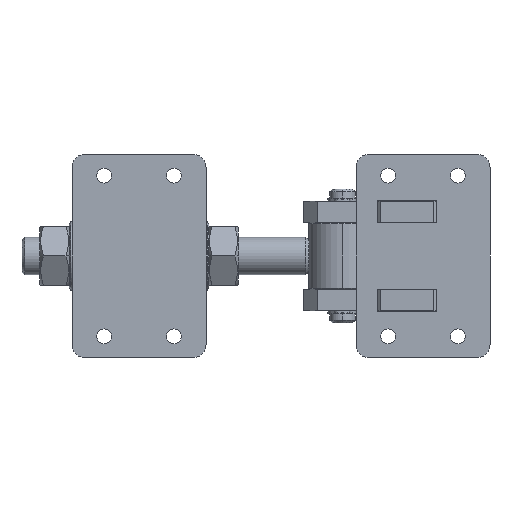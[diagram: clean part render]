
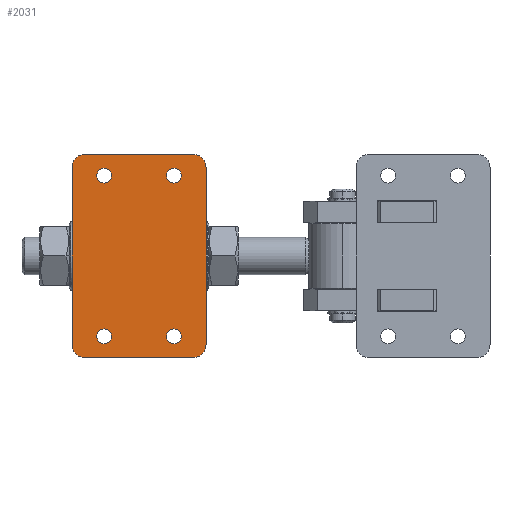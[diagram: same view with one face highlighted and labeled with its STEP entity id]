
A CAD part, front view. The second image highlights one B-rep face of the part: STEP entity #2031.
In plain terms, the highlighted planar face has unit normal (0, -1, 0).
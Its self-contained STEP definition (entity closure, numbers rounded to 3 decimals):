
#357 = ORIENTED_EDGE ( 'NONE', *, *, #3318, .T. ) ;
#410 = EDGE_LOOP ( 'NONE', ( #1472, #1672 ) ) ;
#415 = EDGE_LOOP ( 'NONE', ( #1492, #1457 ) ) ;
#416 = EDGE_LOOP ( 'NONE', ( #4749, #1671 ) ) ;
#419 = EDGE_LOOP ( 'NONE', ( #1524, #1678, #1674, #1675, #1697, #1669, #1526, #357 ) ) ;
#800 = CARTESIAN_POINT ( 'NONE',  ( -30., -7.938, -15.75 ) ) ;
#803 = CARTESIAN_POINT ( 'NONE',  ( 38., -7.938, 20. ) ) ;
#815 = CARTESIAN_POINT ( 'NONE',  ( 30., -7.938, 15.75 ) ) ;
#827 = CARTESIAN_POINT ( 'NONE',  ( 38., -7.938, -20. ) ) ;
#828 = CARTESIAN_POINT ( 'NONE',  ( -33., -7.938, 25. ) ) ;
#830 = CARTESIAN_POINT ( 'NONE',  ( 33., -7.938, 25. ) ) ;
#834 = CARTESIAN_POINT ( 'NONE',  ( 33., -7.938, -25. ) ) ;
#860 = CARTESIAN_POINT ( 'NONE',  ( -38., -7.938, 20. ) ) ;
#909 = CARTESIAN_POINT ( 'NONE',  ( -33., -7.938, 20. ) ) ;
#910 = DIRECTION ( 'NONE',  ( 0., -1., 0. ) ) ;
#911 = DIRECTION ( 'NONE',  ( 0., 0., 1. ) ) ;
#939 = CARTESIAN_POINT ( 'NONE',  ( -30., -7.938, -13. ) ) ;
#940 = DIRECTION ( 'NONE',  ( 0., 1., 0. ) ) ;
#941 = DIRECTION ( 'NONE',  ( 0., 0., 1. ) ) ;
#1063 = CARTESIAN_POINT ( 'NONE',  ( 33., -7.938, -20. ) ) ;
#1064 = DIRECTION ( 'NONE',  ( 0., -1., 0. ) ) ;
#1065 = DIRECTION ( 'NONE',  ( 0., 0., 1. ) ) ;
#1094 = CARTESIAN_POINT ( 'NONE',  ( 33., -7.938, 20. ) ) ;
#1095 = DIRECTION ( 'NONE',  ( 0., -1., 0. ) ) ;
#1096 = DIRECTION ( 'NONE',  ( 0., 0., 1. ) ) ;
#1107 = CARTESIAN_POINT ( 'NONE',  ( 30., -7.938, -13. ) ) ;
#1108 = DIRECTION ( 'NONE',  ( 0., 1., 0. ) ) ;
#1109 = DIRECTION ( 'NONE',  ( 0., 0., 1. ) ) ;
#1118 = CARTESIAN_POINT ( 'NONE',  ( -33., -7.938, -20. ) ) ;
#1119 = DIRECTION ( 'NONE',  ( 0., -1., 0. ) ) ;
#1120 = DIRECTION ( 'NONE',  ( 0., 0., 1. ) ) ;
#1126 = CARTESIAN_POINT ( 'NONE',  ( -38., -7.938, -20. ) ) ;
#1158 = LINE ( 'NONE', #1159, #2307 ) ;
#1159 = CARTESIAN_POINT ( 'NONE',  ( 38., -7.938, -25. ) ) ;
#1160 = CARTESIAN_POINT ( 'NONE',  ( -30., -7.938, 13. ) ) ;
#1161 = DIRECTION ( 'NONE',  ( 0., 1., 0. ) ) ;
#1162 = DIRECTION ( 'NONE',  ( 0., 0., 1. ) ) ;
#1167 = DIRECTION ( 'NONE',  ( 0., 0., -1. ) ) ;
#1180 = CARTESIAN_POINT ( 'NONE',  ( 30., -7.938, 13. ) ) ;
#1181 = DIRECTION ( 'NONE',  ( 0., 1., 0. ) ) ;
#1182 = DIRECTION ( 'NONE',  ( 0., 0., 1. ) ) ;
#1189 = CARTESIAN_POINT ( 'NONE',  ( 30., -7.938, 13. ) ) ;
#1190 = DIRECTION ( 'NONE',  ( 0., 1., 0. ) ) ;
#1191 = DIRECTION ( 'NONE',  ( 0., 0., 1. ) ) ;
#1193 = LINE ( 'NONE', #1194, #2292 ) ;
#1194 = CARTESIAN_POINT ( 'NONE',  ( -38., -7.938, 25. ) ) ;
#1195 = DIRECTION ( 'NONE',  ( 1., 0., 0. ) ) ;
#1329 = ORIENTED_EDGE ( 'NONE', *, *, #5078, .T. ) ;
#1383 = EDGE_LOOP ( 'NONE', ( #1329, #3179 ) ) ;
#1418 = VERTEX_POINT ( 'NONE', #800 ) ;
#1421 = VERTEX_POINT ( 'NONE', #803 ) ;
#1433 = VERTEX_POINT ( 'NONE', #815 ) ;
#1445 = VERTEX_POINT ( 'NONE', #827 ) ;
#1446 = VERTEX_POINT ( 'NONE', #828 ) ;
#1448 = VERTEX_POINT ( 'NONE', #830 ) ;
#1457 = ORIENTED_EDGE ( 'NONE', *, *, #2111, .T. ) ;
#1472 = ORIENTED_EDGE ( 'NONE', *, *, #1859, .T. ) ;
#1492 = ORIENTED_EDGE ( 'NONE', *, *, #5068, .T. ) ;
#1524 = ORIENTED_EDGE ( 'NONE', *, *, #2083, .F. ) ;
#1526 = ORIENTED_EDGE ( 'NONE', *, *, #2109, .F. ) ;
#1538 = VERTEX_POINT ( 'NONE', #834 ) ;
#1669 = ORIENTED_EDGE ( 'NONE', *, *, #1849, .T. ) ;
#1671 = ORIENTED_EDGE ( 'NONE', *, *, #2098, .T. ) ;
#1672 = ORIENTED_EDGE ( 'NONE', *, *, #2086, .T. ) ;
#1674 = ORIENTED_EDGE ( 'NONE', *, *, #5071, .F. ) ;
#1675 = ORIENTED_EDGE ( 'NONE', *, *, #3311, .T. ) ;
#1678 = ORIENTED_EDGE ( 'NONE', *, *, #3301, .T. ) ;
#1697 = ORIENTED_EDGE ( 'NONE', *, *, #5080, .F. ) ;
#1762 = VERTEX_POINT ( 'NONE', #860 ) ;
#1849 = EDGE_CURVE ( 'NONE', #1446, #1762, #5438, .T. ) ;
#1859 = EDGE_CURVE ( 'NONE', #2166, #1418, #5412, .T. ) ;
#2031 = ADVANCED_FACE ( 'NONE', ( #3401, #3397, #3404, #3406, #3400 ), #3392, .F. ) ;
#2083 = EDGE_CURVE ( 'NONE', #1538, #2163, #4148, .T. ) ;
#2086 = EDGE_CURVE ( 'NONE', #1418, #2166, #3840, .T. ) ;
#2098 = EDGE_CURVE ( 'NONE', #2181, #2183, #3824, .T. ) ;
#2109 = EDGE_CURVE ( 'NONE', #4375, #1762, #4215, .T. ) ;
#2111 = EDGE_CURVE ( 'NONE', #2182, #2184, #3768, .T. ) ;
#2163 = VERTEX_POINT ( 'NONE', #4238 ) ;
#2166 = VERTEX_POINT ( 'NONE', #4244 ) ;
#2181 = VERTEX_POINT ( 'NONE', #4257 ) ;
#2182 = VERTEX_POINT ( 'NONE', #4258 ) ;
#2183 = VERTEX_POINT ( 'NONE', #4259 ) ;
#2184 = VERTEX_POINT ( 'NONE', #4260 ) ;
#2186 = VERTEX_POINT ( 'NONE', #4262 ) ;
#2292 = VECTOR ( 'NONE', #1195, 1000. ) ;
#2293 = AXIS2_PLACEMENT_3D ( 'NONE', #1189, #1190, #1191 ) ;
#2296 = CIRCLE ( 'NONE', #2293, 2.75 ) ;
#2297 = AXIS2_PLACEMENT_3D ( 'NONE', #1180, #1181, #1182 ) ;
#2300 = CIRCLE ( 'NONE', #2297, 2.75 ) ;
#2307 = VECTOR ( 'NONE', #1167, 1000. ) ;
#2308 = CIRCLE ( 'NONE', #2316, 2.75 ) ;
#2315 = AXIS2_PLACEMENT_3D ( 'NONE', #1118, #1119, #1120 ) ;
#2316 = AXIS2_PLACEMENT_3D ( 'NONE', #1160, #1161, #1162 ) ;
#2320 = AXIS2_PLACEMENT_3D ( 'NONE', #1107, #1108, #1109 ) ;
#2323 = CIRCLE ( 'NONE', #2320, 2.75 ) ;
#2327 = AXIS2_PLACEMENT_3D ( 'NONE', #1094, #1095, #1096 ) ;
#2329 = CIRCLE ( 'NONE', #2327, 5. ) ;
#2333 = CIRCLE ( 'NONE', #2315, 5. ) ;
#3179 = ORIENTED_EDGE ( 'NONE', *, *, #5076, .T. ) ;
#3301 = EDGE_CURVE ( 'NONE', #1538, #1445, #3617, .T. ) ;
#3311 = EDGE_CURVE ( 'NONE', #1421, #1448, #2329, .T. ) ;
#3315 = EDGE_CURVE ( 'NONE', #2183, #2181, #2323, .T. ) ;
#3318 = EDGE_CURVE ( 'NONE', #4375, #2163, #2333, .T. ) ;
#3392 = PLANE ( 'NONE',  #3728 ) ;
#3397 = FACE_BOUND ( 'NONE', #1383, .T. ) ;
#3400 = FACE_OUTER_BOUND ( 'NONE', #419, .T. ) ;
#3401 = FACE_BOUND ( 'NONE', #415, .T. ) ;
#3403 = CARTESIAN_POINT ( 'NONE',  ( -38., -7.938, 25. ) ) ;
#3404 = FACE_BOUND ( 'NONE', #416, .T. ) ;
#3406 = FACE_BOUND ( 'NONE', #410, .T. ) ;
#3407 = DIRECTION ( 'NONE',  ( 0., 1., 0. ) ) ;
#3408 = DIRECTION ( 'NONE',  ( 0., 0., 1. ) ) ;
#3615 = AXIS2_PLACEMENT_3D ( 'NONE', #1063, #1064, #1065 ) ;
#3617 = CIRCLE ( 'NONE', #3615, 5. ) ;
#3728 = AXIS2_PLACEMENT_3D ( 'NONE', #3403, #3407, #3408 ) ;
#3733 = AXIS2_PLACEMENT_3D ( 'NONE', #4235, #4236, #4237 ) ;
#3760 = VECTOR ( 'NONE', #4229, 1000. ) ;
#3768 = CIRCLE ( 'NONE', #3733, 2.75 ) ;
#3821 = AXIS2_PLACEMENT_3D ( 'NONE', #4195, #4196, #4197 ) ;
#3824 = CIRCLE ( 'NONE', #3821, 2.75 ) ;
#3836 = AXIS2_PLACEMENT_3D ( 'NONE', #4160, #4161, #4162 ) ;
#3840 = CIRCLE ( 'NONE', #3836, 2.75 ) ;
#3841 = VECTOR ( 'NONE', #4151, 1000. ) ;
#4148 = LINE ( 'NONE', #4150, #3841 ) ;
#4150 = CARTESIAN_POINT ( 'NONE',  ( -38., -7.938, -25. ) ) ;
#4151 = DIRECTION ( 'NONE',  ( -1., 0., 0. ) ) ;
#4160 = CARTESIAN_POINT ( 'NONE',  ( -30., -7.938, -13. ) ) ;
#4161 = DIRECTION ( 'NONE',  ( 0., 1., 0. ) ) ;
#4162 = DIRECTION ( 'NONE',  ( 0., 0., 1. ) ) ;
#4195 = CARTESIAN_POINT ( 'NONE',  ( 30., -7.938, -13. ) ) ;
#4196 = DIRECTION ( 'NONE',  ( 0., 1., 0. ) ) ;
#4197 = DIRECTION ( 'NONE',  ( 0., 0., 1. ) ) ;
#4215 = LINE ( 'NONE', #4216, #3760 ) ;
#4216 = CARTESIAN_POINT ( 'NONE',  ( -38., -7.938, -25. ) ) ;
#4229 = DIRECTION ( 'NONE',  ( 0., 0., 1. ) ) ;
#4235 = CARTESIAN_POINT ( 'NONE',  ( -30., -7.938, 13. ) ) ;
#4236 = DIRECTION ( 'NONE',  ( 0., 1., 0. ) ) ;
#4237 = DIRECTION ( 'NONE',  ( 0., 0., 1. ) ) ;
#4238 = CARTESIAN_POINT ( 'NONE',  ( -33., -7.938, -25. ) ) ;
#4244 = CARTESIAN_POINT ( 'NONE',  ( -30., -7.938, -10.25 ) ) ;
#4257 = CARTESIAN_POINT ( 'NONE',  ( 30., -7.938, -15.75 ) ) ;
#4258 = CARTESIAN_POINT ( 'NONE',  ( -30., -7.938, 10.25 ) ) ;
#4259 = CARTESIAN_POINT ( 'NONE',  ( 30., -7.938, -10.25 ) ) ;
#4260 = CARTESIAN_POINT ( 'NONE',  ( -30., -7.938, 15.75 ) ) ;
#4262 = CARTESIAN_POINT ( 'NONE',  ( 30., -7.938, 10.25 ) ) ;
#4375 = VERTEX_POINT ( 'NONE', #1126 ) ;
#4749 = ORIENTED_EDGE ( 'NONE', *, *, #3315, .T. ) ;
#5068 = EDGE_CURVE ( 'NONE', #2184, #2182, #2308, .T. ) ;
#5071 = EDGE_CURVE ( 'NONE', #1421, #1445, #1158, .T. ) ;
#5076 = EDGE_CURVE ( 'NONE', #2186, #1433, #2300, .T. ) ;
#5078 = EDGE_CURVE ( 'NONE', #1433, #2186, #2296, .T. ) ;
#5080 = EDGE_CURVE ( 'NONE', #1446, #1448, #1193, .T. ) ;
#5408 = AXIS2_PLACEMENT_3D ( 'NONE', #939, #940, #941 ) ;
#5412 = CIRCLE ( 'NONE', #5408, 2.75 ) ;
#5437 = AXIS2_PLACEMENT_3D ( 'NONE', #909, #910, #911 ) ;
#5438 = CIRCLE ( 'NONE', #5437, 5. ) ;
